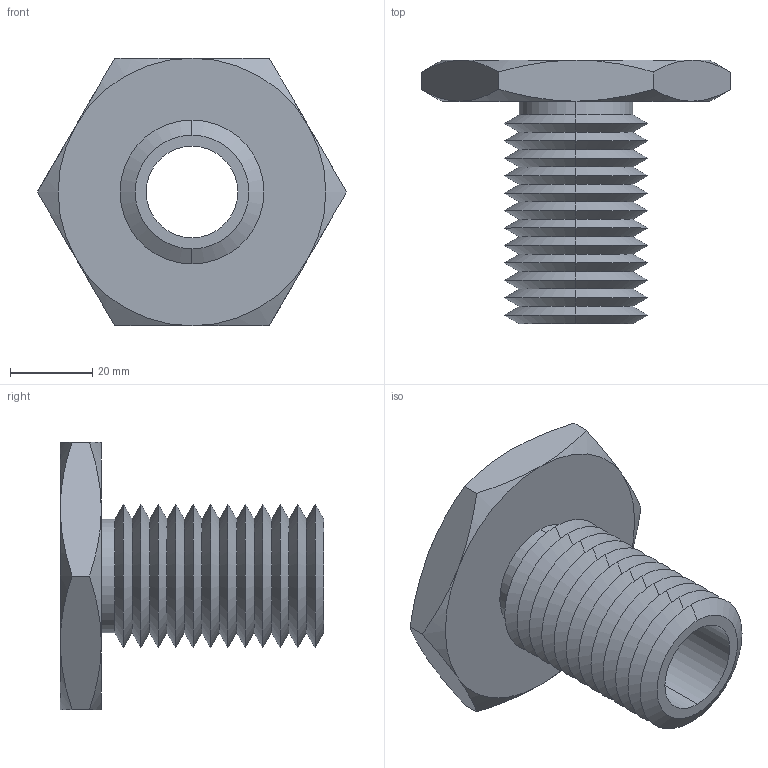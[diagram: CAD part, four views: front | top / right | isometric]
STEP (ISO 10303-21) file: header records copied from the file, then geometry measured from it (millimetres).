
FILE_DESCRIPTION (( 'STEP AP203' ), '1' );
FILE_NAME ('63302.W5138_0,87 UNC-9.step', '2013-12-08T11:44:16', ( 'User' ), ( '' ), 'SwSTEP 2.0', 'SolidWorks 2009', '' );
FILE_SCHEMA (( 'CONFIG_CONTROL_DESIGN' ));
Length unit declared in the file: millimetre
Products named in the file (1): 63302.W5138_0,87 UNC-9
Bounding box: 75.06 x 64 x 65 mm (x, y, z)
Volume: 51942.8 mm3; surface area: 23067.8 mm2
Topology: 1 solids, 1 shells, 75 faces, 154 edges, 82 vertices
Faces by surface type: cone 62, plane 9, cylinder 4
Entity records: 2139 total; most frequent: CARTESIAN_POINT 496, DIRECTION 352, ORIENTED_EDGE 308, EDGE_CURVE 154, AXIS2_PLACEMENT_3D 146, VERTEX_POINT 82, EDGE_LOOP 78, ADVANCED_FACE 75
